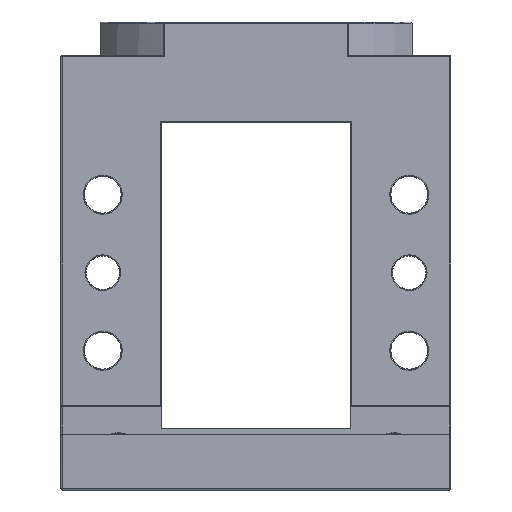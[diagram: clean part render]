
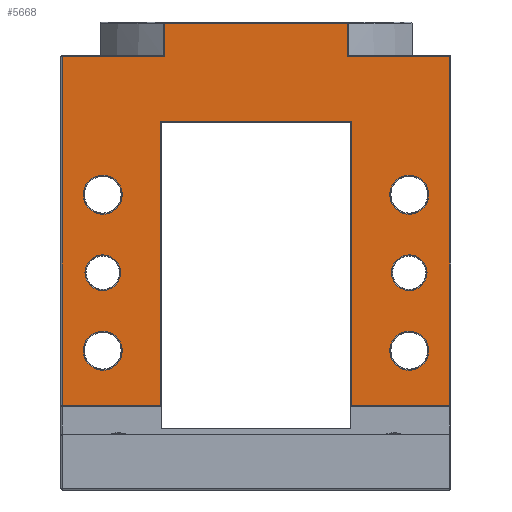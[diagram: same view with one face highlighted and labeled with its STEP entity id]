
A CAD part, front view. The second image highlights one B-rep face of the part: STEP entity #5668.
In plain terms, the highlighted planar face has unit normal (0, -1, 0).
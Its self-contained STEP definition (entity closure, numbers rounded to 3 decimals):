
#126=CARTESIAN_POINT('',(-27.5,-28.,47.5));
#127=DIRECTION('',(0.,1.,0.));
#128=DIRECTION('',(-1.,0.,0.));
#129=AXIS2_PLACEMENT_3D('',#126,#127,#128);
#131=CARTESIAN_POINT('',(-27.5,-28.,47.5));
#132=DIRECTION('',(0.,1.,0.));
#133=DIRECTION('',(1.,0.,0.));
#134=AXIS2_PLACEMENT_3D('',#131,#132,#133);
#136=CARTESIAN_POINT('',(-27.5,-28.,19.5));
#137=DIRECTION('',(0.,1.,0.));
#138=DIRECTION('',(-1.,0.,0.));
#139=AXIS2_PLACEMENT_3D('',#136,#137,#138);
#141=CARTESIAN_POINT('',(-27.5,-28.,19.5));
#142=DIRECTION('',(0.,1.,0.));
#143=DIRECTION('',(1.,0.,0.));
#144=AXIS2_PLACEMENT_3D('',#141,#142,#143);
#146=CARTESIAN_POINT('',(27.5,-28.,47.5));
#147=DIRECTION('',(0.,1.,0.));
#148=DIRECTION('',(-1.,0.,0.));
#149=AXIS2_PLACEMENT_3D('',#146,#147,#148);
#151=CARTESIAN_POINT('',(27.5,-28.,47.5));
#152=DIRECTION('',(0.,1.,0.));
#153=DIRECTION('',(1.,0.,0.));
#154=AXIS2_PLACEMENT_3D('',#151,#152,#153);
#156=CARTESIAN_POINT('',(27.5,-28.,19.5));
#157=DIRECTION('',(0.,1.,0.));
#158=DIRECTION('',(-1.,0.,0.));
#159=AXIS2_PLACEMENT_3D('',#156,#157,#158);
#161=CARTESIAN_POINT('',(27.5,-28.,19.5));
#162=DIRECTION('',(0.,1.,0.));
#163=DIRECTION('',(1.,0.,0.));
#164=AXIS2_PLACEMENT_3D('',#161,#162,#163);
#166=CARTESIAN_POINT('',(27.5,-28.,33.5));
#167=DIRECTION('',(0.,1.,0.));
#168=DIRECTION('',(-1.,0.,0.));
#169=AXIS2_PLACEMENT_3D('',#166,#167,#168);
#171=CARTESIAN_POINT('',(27.5,-28.,33.5));
#172=DIRECTION('',(0.,1.,0.));
#173=DIRECTION('',(1.,0.,0.));
#174=AXIS2_PLACEMENT_3D('',#171,#172,#173);
#176=CARTESIAN_POINT('',(-27.5,-28.,33.5));
#177=DIRECTION('',(0.,1.,0.));
#178=DIRECTION('',(-1.,0.,0.));
#179=AXIS2_PLACEMENT_3D('',#176,#177,#178);
#181=CARTESIAN_POINT('',(-27.5,-28.,33.5));
#182=DIRECTION('',(0.,1.,0.));
#183=DIRECTION('',(1.,0.,0.));
#184=AXIS2_PLACEMENT_3D('',#181,#182,#183);
#1089=DIRECTION('',(1.,0.,0.));
#1090=VECTOR('',#1089,18.355);
#1091=CARTESIAN_POINT('',(-34.8,-28.,72.3));
#1092=LINE('',#1091,#1090);
#1101=DIRECTION('',(0.,0.,1.));
#1102=VECTOR('',#1101,6.);
#1103=CARTESIAN_POINT('',(-16.445,-28.,72.3));
#1104=LINE('',#1103,#1102);
#1122=DIRECTION('',(1.,0.,0.));
#1123=VECTOR('',#1122,32.891);
#1124=CARTESIAN_POINT('',(-16.445,-28.,78.3));
#1125=LINE('',#1124,#1123);
#1140=DIRECTION('',(0.,0.,-1.));
#1141=VECTOR('',#1140,6.);
#1142=CARTESIAN_POINT('',(16.445,-28.,78.3));
#1143=LINE('',#1142,#1141);
#1152=DIRECTION('',(1.,0.,0.));
#1153=VECTOR('',#1152,18.355);
#1154=CARTESIAN_POINT('',(16.445,-28.,72.3));
#1155=LINE('',#1154,#1153);
#1250=DIRECTION('',(0.,0.,-1.));
#1251=VECTOR('',#1250,62.6);
#1252=CARTESIAN_POINT('',(34.8,-28.,72.3));
#1253=LINE('',#1252,#1251);
#2250=DIRECTION('',(-1.,0.,0.));
#2251=VECTOR('',#2250,17.6);
#2252=CARTESIAN_POINT('',(34.8,-28.,9.7));
#2253=LINE('',#2252,#2251);
#2282=DIRECTION('',(0.,0.,1.));
#2283=VECTOR('',#2282,51.);
#2284=CARTESIAN_POINT('',(17.2,-28.,9.7));
#2285=LINE('',#2284,#2283);
#2298=DIRECTION('',(-1.,0.,0.));
#2299=VECTOR('',#2298,34.4);
#2300=CARTESIAN_POINT('',(17.2,-28.,60.7));
#2301=LINE('',#2300,#2299);
#2314=DIRECTION('',(0.,0.,-1.));
#2315=VECTOR('',#2314,51.);
#2316=CARTESIAN_POINT('',(-17.2,-28.,60.7));
#2317=LINE('',#2316,#2315);
#2322=DIRECTION('',(-1.,0.,0.));
#2323=VECTOR('',#2322,17.6);
#2324=CARTESIAN_POINT('',(-17.2,-28.,9.7));
#2325=LINE('',#2324,#2323);
#2573=DIRECTION('',(0.,0.,1.));
#2574=VECTOR('',#2573,62.6);
#2575=CARTESIAN_POINT('',(-34.8,-28.,9.7));
#2576=LINE('',#2575,#2574);
#4505=CARTESIAN_POINT('',(34.8,-28.,9.7));
#4506=CARTESIAN_POINT('',(17.2,-28.,9.7));
#4507=VERTEX_POINT('',#4505);
#4508=VERTEX_POINT('',#4506);
#4509=CARTESIAN_POINT('',(34.8,-28.,72.3));
#4510=VERTEX_POINT('',#4509);
#4511=CARTESIAN_POINT('',(16.445,-28.,72.3));
#4512=VERTEX_POINT('',#4511);
#4513=CARTESIAN_POINT('',(16.445,-28.,78.3));
#4514=VERTEX_POINT('',#4513);
#4515=CARTESIAN_POINT('',(-16.445,-28.,78.3));
#4516=VERTEX_POINT('',#4515);
#4517=CARTESIAN_POINT('',(-16.445,-28.,72.3));
#4518=VERTEX_POINT('',#4517);
#4519=CARTESIAN_POINT('',(-34.8,-28.,72.3));
#4520=VERTEX_POINT('',#4519);
#4521=CARTESIAN_POINT('',(-34.8,-28.,9.7));
#4522=VERTEX_POINT('',#4521);
#4523=CARTESIAN_POINT('',(-17.2,-28.,9.7));
#4524=VERTEX_POINT('',#4523);
#4525=CARTESIAN_POINT('',(-17.2,-28.,60.7));
#4526=VERTEX_POINT('',#4525);
#4527=CARTESIAN_POINT('',(17.2,-28.,60.7));
#4528=VERTEX_POINT('',#4527);
#5107=CARTESIAN_POINT('',(-30.7,-28.,33.5));
#5108=VERTEX_POINT('',#5107);
#5109=CARTESIAN_POINT('',(-24.3,-28.,33.5));
#5110=VERTEX_POINT('',#5109);
#5119=CARTESIAN_POINT('',(24.3,-28.,33.5));
#5120=VERTEX_POINT('',#5119);
#5121=CARTESIAN_POINT('',(30.7,-28.,33.5));
#5122=VERTEX_POINT('',#5121);
#5131=CARTESIAN_POINT('',(24.,-28.,19.5));
#5132=VERTEX_POINT('',#5131);
#5133=CARTESIAN_POINT('',(31.,-28.,19.5));
#5134=VERTEX_POINT('',#5133);
#5143=CARTESIAN_POINT('',(24.,-28.,47.5));
#5144=VERTEX_POINT('',#5143);
#5145=CARTESIAN_POINT('',(31.,-28.,47.5));
#5146=VERTEX_POINT('',#5145);
#5155=CARTESIAN_POINT('',(-31.,-28.,19.5));
#5156=VERTEX_POINT('',#5155);
#5157=CARTESIAN_POINT('',(-24.,-28.,19.5));
#5158=VERTEX_POINT('',#5157);
#5167=CARTESIAN_POINT('',(-31.,-28.,47.5));
#5168=VERTEX_POINT('',#5167);
#5169=CARTESIAN_POINT('',(-24.,-28.,47.5));
#5170=VERTEX_POINT('',#5169);
#5602=CARTESIAN_POINT('',(-35.,-28.,143.544));
#5603=DIRECTION('',(0.,1.,0.));
#5604=DIRECTION('',(1.,0.,0.));
#5605=AXIS2_PLACEMENT_3D('',#5602,#5603,#5604);
#5606=PLANE('',#5605);
#5608=ORIENTED_EDGE('',*,*,#5607,.T.);
#5610=ORIENTED_EDGE('',*,*,#5609,.T.);
#5612=ORIENTED_EDGE('',*,*,#5611,.T.);
#5614=ORIENTED_EDGE('',*,*,#5613,.T.);
#5616=ORIENTED_EDGE('',*,*,#5615,.T.);
#5618=ORIENTED_EDGE('',*,*,#5617,.T.);
#5620=ORIENTED_EDGE('',*,*,#5619,.T.);
#5622=ORIENTED_EDGE('',*,*,#5621,.T.);
#5624=ORIENTED_EDGE('',*,*,#5623,.T.);
#5626=ORIENTED_EDGE('',*,*,#5625,.T.);
#5628=ORIENTED_EDGE('',*,*,#5627,.T.);
#5630=ORIENTED_EDGE('',*,*,#5629,.T.);
#5631=EDGE_LOOP('',(#5608,#5610,#5612,#5614,#5616,#5618,#5620,#5622,#5624,#5626,
#5628,#5630));
#5632=FACE_OUTER_BOUND('',#5631,.F.);
#5634=ORIENTED_EDGE('',*,*,#5633,.F.);
#5636=ORIENTED_EDGE('',*,*,#5635,.F.);
#5637=EDGE_LOOP('',(#5634,#5636));
#5638=FACE_BOUND('',#5637,.F.);
#5640=ORIENTED_EDGE('',*,*,#5639,.F.);
#5641=ORIENTED_EDGE('',*,*,#5592,.F.);
#5642=EDGE_LOOP('',(#5640,#5641));
#5643=FACE_BOUND('',#5642,.F.);
#5645=ORIENTED_EDGE('',*,*,#5644,.F.);
#5647=ORIENTED_EDGE('',*,*,#5646,.F.);
#5648=EDGE_LOOP('',(#5645,#5647));
#5649=FACE_BOUND('',#5648,.F.);
#5651=ORIENTED_EDGE('',*,*,#5650,.F.);
#5653=ORIENTED_EDGE('',*,*,#5652,.F.);
#5654=EDGE_LOOP('',(#5651,#5653));
#5655=FACE_BOUND('',#5654,.F.);
#5657=ORIENTED_EDGE('',*,*,#5656,.F.);
#5659=ORIENTED_EDGE('',*,*,#5658,.F.);
#5660=EDGE_LOOP('',(#5657,#5659));
#5661=FACE_BOUND('',#5660,.F.);
#5663=ORIENTED_EDGE('',*,*,#5662,.F.);
#5665=ORIENTED_EDGE('',*,*,#5664,.F.);
#5666=EDGE_LOOP('',(#5663,#5665));
#5667=FACE_BOUND('',#5666,.F.);
#130=CIRCLE('',#129,3.5);
#135=CIRCLE('',#134,3.5);
#140=CIRCLE('',#139,3.5);
#145=CIRCLE('',#144,3.5);
#150=CIRCLE('',#149,3.5);
#155=CIRCLE('',#154,3.5);
#160=CIRCLE('',#159,3.5);
#165=CIRCLE('',#164,3.5);
#170=CIRCLE('',#169,3.2);
#175=CIRCLE('',#174,3.2);
#180=CIRCLE('',#179,3.2);
#185=CIRCLE('',#184,3.2);
#5592=EDGE_CURVE('',#5146,#5144,#155,.T.);
#5607=EDGE_CURVE('',#4507,#4508,#2253,.T.);
#5609=EDGE_CURVE('',#4508,#4528,#2285,.T.);
#5611=EDGE_CURVE('',#4528,#4526,#2301,.T.);
#5613=EDGE_CURVE('',#4526,#4524,#2317,.T.);
#5615=EDGE_CURVE('',#4524,#4522,#2325,.T.);
#5617=EDGE_CURVE('',#4522,#4520,#2576,.T.);
#5619=EDGE_CURVE('',#4520,#4518,#1092,.T.);
#5621=EDGE_CURVE('',#4518,#4516,#1104,.T.);
#5623=EDGE_CURVE('',#4516,#4514,#1125,.T.);
#5625=EDGE_CURVE('',#4514,#4512,#1143,.T.);
#5627=EDGE_CURVE('',#4512,#4510,#1155,.T.);
#5629=EDGE_CURVE('',#4510,#4507,#1253,.T.);
#5633=EDGE_CURVE('',#5156,#5158,#140,.T.);
#5635=EDGE_CURVE('',#5158,#5156,#145,.T.);
#5639=EDGE_CURVE('',#5144,#5146,#150,.T.);
#5644=EDGE_CURVE('',#5132,#5134,#160,.T.);
#5646=EDGE_CURVE('',#5134,#5132,#165,.T.);
#5650=EDGE_CURVE('',#5120,#5122,#170,.T.);
#5652=EDGE_CURVE('',#5122,#5120,#175,.T.);
#5656=EDGE_CURVE('',#5108,#5110,#180,.T.);
#5658=EDGE_CURVE('',#5110,#5108,#185,.T.);
#5662=EDGE_CURVE('',#5168,#5170,#130,.T.);
#5664=EDGE_CURVE('',#5170,#5168,#135,.T.);
#5668=ADVANCED_FACE('',(#5632,#5638,#5643,#5649,#5655,#5661,#5667),#5606,.F.);
